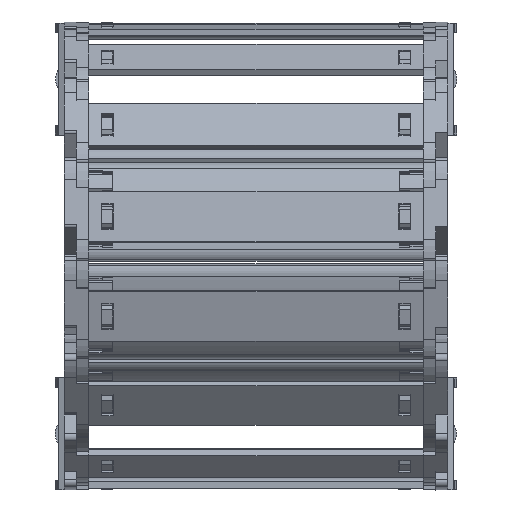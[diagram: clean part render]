
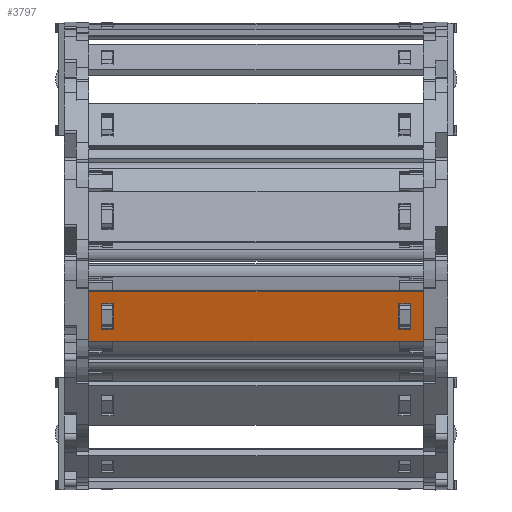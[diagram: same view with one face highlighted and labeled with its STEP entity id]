
A CAD part, top view. The second image highlights one B-rep face of the part: STEP entity #3797.
In plain terms, the highlighted planar face has unit normal (0, -0.259, 0.966) as drawn and (0, 1, 0) by its records, which use the part's own axes.
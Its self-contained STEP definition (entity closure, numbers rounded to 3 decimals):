
#2923=DIRECTION('',(0.,0.,1.));
#2924=VECTOR('',#2923,15.8);
#2925=CARTESIAN_POINT('',(88.74,1.5,-7.9));
#2926=LINE('',#2925,#2924);
#2930=DIRECTION('',(-1.,0.,0.));
#2931=VECTOR('',#2930,103.5);
#2932=CARTESIAN_POINT('',(88.74,1.5,7.9));
#2933=LINE('',#2932,#2931);
#2937=DIRECTION('',(0.,0.,-1.));
#2938=VECTOR('',#2937,15.8);
#2939=CARTESIAN_POINT('',(-14.76,1.5,7.9));
#2940=LINE('',#2939,#2938);
#2944=DIRECTION('',(1.,0.,0.));
#2945=VECTOR('',#2944,3.648);
#2946=CARTESIAN_POINT('',(81.122,1.5,4.075));
#2947=LINE('',#2946,#2945);
#2951=DIRECTION('',(0.,0.,-1.));
#2952=VECTOR('',#2951,8.15);
#2953=CARTESIAN_POINT('',(84.77,1.5,4.075));
#2954=LINE('',#2953,#2952);
#2958=DIRECTION('',(-1.,0.,0.));
#2959=VECTOR('',#2958,3.648);
#2960=CARTESIAN_POINT('',(84.77,1.5,-4.075));
#2961=LINE('',#2960,#2959);
#2965=DIRECTION('',(0.,0.,-1.));
#2966=VECTOR('',#2965,8.15);
#2967=CARTESIAN_POINT('',(-7.142,1.5,4.075));
#2968=LINE('',#2967,#2966);
#2972=DIRECTION('',(-1.,0.,0.));
#2973=VECTOR('',#2972,3.648);
#2974=CARTESIAN_POINT('',(-7.142,1.5,-4.075));
#2975=LINE('',#2974,#2973);
#2979=DIRECTION('',(0.,0.,1.));
#2980=VECTOR('',#2979,8.15);
#2981=CARTESIAN_POINT('',(-10.79,1.5,-4.075));
#2982=LINE('',#2981,#2980);
#2986=DIRECTION('',(1.,0.,0.));
#2987=VECTOR('',#2986,3.648);
#2988=CARTESIAN_POINT('',(-10.79,1.5,4.075));
#2989=LINE('',#2988,#2987);
#3000=DIRECTION('',(-1.,0.,0.));
#3001=VECTOR('',#3000,103.5);
#3002=CARTESIAN_POINT('',(88.74,1.5,-7.9));
#3003=LINE('',#3002,#3001);
#3208=DIRECTION('',(0.,0.,-1.));
#3209=VECTOR('',#3208,8.15);
#3210=CARTESIAN_POINT('',(81.122,1.5,4.075));
#3211=LINE('',#3210,#3209);
#3507=CARTESIAN_POINT('',(84.77,1.5,4.075));
#3508=VERTEX_POINT('',#3507);
#3509=CARTESIAN_POINT('',(81.122,1.5,4.075));
#3510=VERTEX_POINT('',#3509);
#3551=CARTESIAN_POINT('',(81.122,1.5,-4.075));
#3552=VERTEX_POINT('',#3551);
#3553=CARTESIAN_POINT('',(84.77,1.5,-4.075));
#3554=VERTEX_POINT('',#3553);
#3555=CARTESIAN_POINT('',(88.74,1.5,7.9));
#3557=VERTEX_POINT('',#3555);
#3559=CARTESIAN_POINT('',(88.74,1.5,-7.9));
#3560=VERTEX_POINT('',#3559);
#3583=CARTESIAN_POINT('',(-7.142,1.5,4.075));
#3584=CARTESIAN_POINT('',(-7.142,1.5,-4.075));
#3585=VERTEX_POINT('',#3583);
#3586=VERTEX_POINT('',#3584);
#3587=CARTESIAN_POINT('',(-10.79,1.5,-4.075));
#3588=VERTEX_POINT('',#3587);
#3589=CARTESIAN_POINT('',(-10.79,1.5,4.075));
#3590=VERTEX_POINT('',#3589);
#3591=CARTESIAN_POINT('',(-14.76,1.5,7.9));
#3592=VERTEX_POINT('',#3591);
#3595=CARTESIAN_POINT('',(-14.76,1.5,-7.9));
#3596=VERTEX_POINT('',#3595);
#3766=CARTESIAN_POINT('',(120.48,1.5,10.061));
#3767=DIRECTION('',(0.,-1.,0.));
#3768=DIRECTION('',(0.,0.,-1.));
#3769=AXIS2_PLACEMENT_3D('',#3766,#3767,#3768);
#3770=PLANE('',#3769);
#3771=ORIENTED_EDGE('',*,*,#3669,.T.);
#3772=ORIENTED_EDGE('',*,*,#3707,.T.);
#3773=ORIENTED_EDGE('',*,*,#3732,.T.);
#3775=ORIENTED_EDGE('',*,*,#3774,.F.);
#3776=EDGE_LOOP('',(#3771,#3772,#3773,#3775));
#3777=FACE_OUTER_BOUND('',#3776,.F.);
#3779=ORIENTED_EDGE('',*,*,#3778,.F.);
#3780=ORIENTED_EDGE('',*,*,#3608,.T.);
#3782=ORIENTED_EDGE('',*,*,#3781,.T.);
#3784=ORIENTED_EDGE('',*,*,#3783,.T.);
#3785=EDGE_LOOP('',(#3779,#3780,#3782,#3784));
#3786=FACE_BOUND('',#3785,.F.);
#3788=ORIENTED_EDGE('',*,*,#3787,.T.);
#3790=ORIENTED_EDGE('',*,*,#3789,.T.);
#3792=ORIENTED_EDGE('',*,*,#3791,.T.);
#3794=ORIENTED_EDGE('',*,*,#3793,.T.);
#3795=EDGE_LOOP('',(#3788,#3790,#3792,#3794));
#3796=FACE_BOUND('',#3795,.F.);
#3797=ADVANCED_FACE('',(#3777,#3786,#3796),#3770,.F.);
#3608=EDGE_CURVE('',#3510,#3508,#2947,.T.);
#3669=EDGE_CURVE('',#3560,#3557,#2926,.T.);
#3707=EDGE_CURVE('',#3557,#3592,#2933,.T.);
#3732=EDGE_CURVE('',#3592,#3596,#2940,.T.);
#3774=EDGE_CURVE('',#3560,#3596,#3003,.T.);
#3778=EDGE_CURVE('',#3510,#3552,#3211,.T.);
#3781=EDGE_CURVE('',#3508,#3554,#2954,.T.);
#3783=EDGE_CURVE('',#3554,#3552,#2961,.T.);
#3787=EDGE_CURVE('',#3585,#3586,#2968,.T.);
#3789=EDGE_CURVE('',#3586,#3588,#2975,.T.);
#3791=EDGE_CURVE('',#3588,#3590,#2982,.T.);
#3793=EDGE_CURVE('',#3590,#3585,#2989,.T.);
